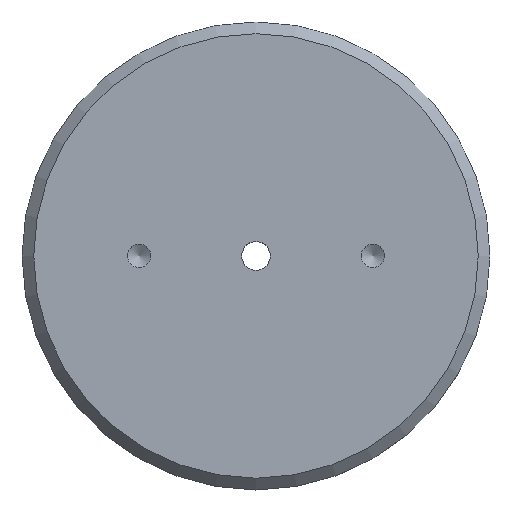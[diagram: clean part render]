
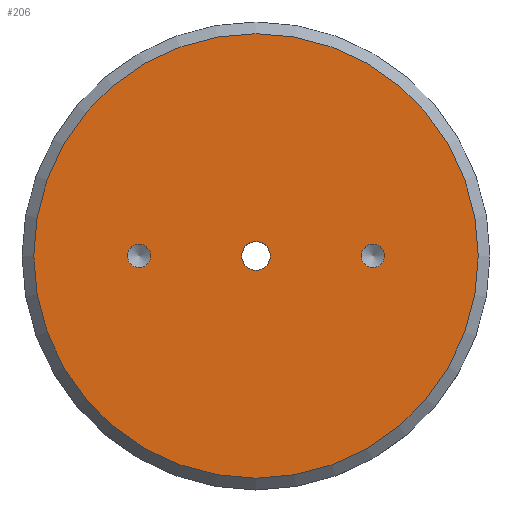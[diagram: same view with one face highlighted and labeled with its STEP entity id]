
A CAD part, top view. The second image highlights one B-rep face of the part: STEP entity #206.
In plain terms, the highlighted planar face has unit normal (0, 0, 1).
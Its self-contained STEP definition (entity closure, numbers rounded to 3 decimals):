
#16=FACE_BOUND('',#50,.T.);
#17=FACE_BOUND('',#51,.T.);
#18=FACE_BOUND('',#52,.T.);
#22=PLANE('',#249);
#34=FACE_OUTER_BOUND('',#49,.T.);
#49=EDGE_LOOP('',(#165));
#50=EDGE_LOOP('',(#166));
#51=EDGE_LOOP('',(#167));
#52=EDGE_LOOP('',(#168));
#83=CIRCLE('',#236,1.23);
#91=CIRCLE('',#248,19.);
#92=CIRCLE('',#250,1.);
#93=CIRCLE('',#251,1.);
#99=VERTEX_POINT('',#339);
#107=VERTEX_POINT('',#362);
#108=VERTEX_POINT('',#366);
#109=VERTEX_POINT('',#368);
#117=EDGE_CURVE('',#99,#99,#83,.T.);
#129=EDGE_CURVE('',#107,#107,#91,.T.);
#130=EDGE_CURVE('',#108,#108,#92,.T.);
#131=EDGE_CURVE('',#109,#109,#93,.T.);
#165=ORIENTED_EDGE('',*,*,#129,.F.);
#166=ORIENTED_EDGE('',*,*,#117,.T.);
#167=ORIENTED_EDGE('',*,*,#130,.T.);
#168=ORIENTED_EDGE('',*,*,#131,.T.);
#206=ADVANCED_FACE('',(#34,#16,#17,#18),#22,.T.);
#236=AXIS2_PLACEMENT_3D('',#340,#269,#270);
#248=AXIS2_PLACEMENT_3D('',#364,#297,#298);
#249=AXIS2_PLACEMENT_3D('',#365,#299,#300);
#250=AXIS2_PLACEMENT_3D('',#367,#301,#302);
#251=AXIS2_PLACEMENT_3D('',#369,#303,#304);
#269=DIRECTION('center_axis',(0.,0.,-1.));
#270=DIRECTION('ref_axis',(1.,0.,0.));
#297=DIRECTION('center_axis',(0.,0.,-1.));
#298=DIRECTION('ref_axis',(0.,-1.,0.));
#299=DIRECTION('center_axis',(0.,0.,1.));
#300=DIRECTION('ref_axis',(1.,0.,0.));
#301=DIRECTION('center_axis',(0.,0.,-1.));
#302=DIRECTION('ref_axis',(1.,0.,0.));
#303=DIRECTION('center_axis',(0.,0.,-1.));
#304=DIRECTION('ref_axis',(-1.,0.,0.));
#339=CARTESIAN_POINT('',(-1.23,0.,3.5));
#340=CARTESIAN_POINT('Origin',(0.,0.,3.5));
#362=CARTESIAN_POINT('',(0.,19.,3.5));
#364=CARTESIAN_POINT('Origin',(0.,0.,3.5));
#365=CARTESIAN_POINT('Origin',(0.,20.,3.5));
#366=CARTESIAN_POINT('',(9.,0.,3.5));
#367=CARTESIAN_POINT('Origin',(10.,0.,3.5));
#368=CARTESIAN_POINT('',(-9.,0.,3.5));
#369=CARTESIAN_POINT('Origin',(-10.,0.,3.5));
